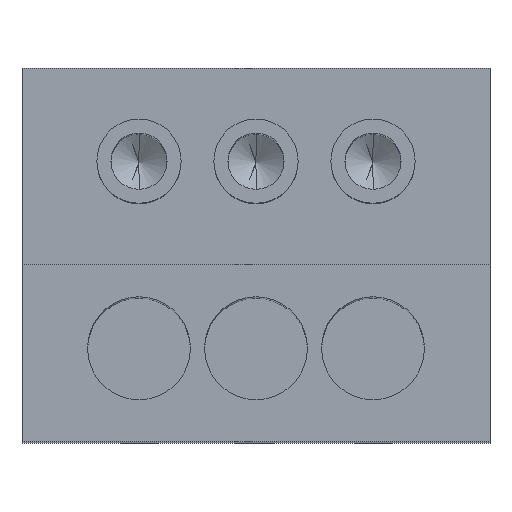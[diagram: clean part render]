
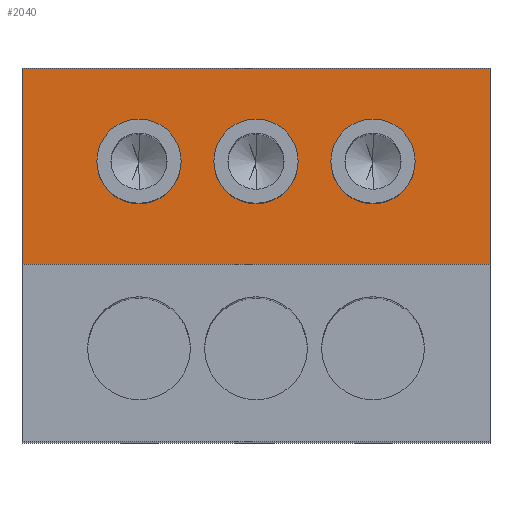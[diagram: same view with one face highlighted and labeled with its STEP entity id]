
A CAD part, top view. The second image highlights one B-rep face of the part: STEP entity #2040.
In plain terms, the highlighted planar face has unit normal (0, 0, 1).
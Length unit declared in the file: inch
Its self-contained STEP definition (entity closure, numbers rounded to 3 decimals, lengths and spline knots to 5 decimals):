
#1 = EDGE_CURVE ( 'NONE', #1478, #151, #2525, .T. ) ;
#19 = ORIENTED_EDGE ( 'NONE', *, *, #950, .F. ) ;
#32 = VECTOR ( 'NONE', #1535, 39.37008 ) ;
#58 = VERTEX_POINT ( 'NONE', #2918 ) ;
#81 = LINE ( 'NONE', #626, #32 ) ;
#150 = PLANE ( 'NONE',  #2132 ) ;
#151 = VERTEX_POINT ( 'NONE', #1407 ) ;
#176 = AXIS2_PLACEMENT_3D ( 'NONE', #2638, #1110, #2883 ) ;
#190 = ORIENTED_EDGE ( 'NONE', *, *, #310, .F. ) ;
#203 = CARTESIAN_POINT ( 'NONE',  ( 0.05, 0.038, 0.1 ) ) ;
#229 = EDGE_CURVE ( 'NONE', #1414, #882, #2978, .T. ) ;
#235 = DIRECTION ( 'NONE',  ( 0., 1., 0. ) ) ;
#310 = EDGE_CURVE ( 'NONE', #1681, #3392, #2010, .T. ) ;
#381 = ORIENTED_EDGE ( 'NONE', *, *, #582, .F. ) ;
#393 = LINE ( 'NONE', #1326, #437 ) ;
#434 = CARTESIAN_POINT ( 'NONE',  ( -0.025, 0.051, 0.1 ) ) ;
#437 = VECTOR ( 'NONE', #1356, 39.37008 ) ;
#508 = CARTESIAN_POINT ( 'NONE',  ( 0.05, 0.038, 0.1 ) ) ;
#512 = DIRECTION ( 'NONE',  ( 0., 0., 1. ) ) ;
#582 = EDGE_CURVE ( 'NONE', #882, #1414, #1553, .T. ) ;
#599 = EDGE_LOOP ( 'NONE', ( #1657, #1703 ) ) ;
#626 = CARTESIAN_POINT ( 'NONE',  ( 0.05, 0.038, 0.1 ) ) ;
#703 = ORIENTED_EDGE ( 'NONE', *, *, #2991, .F. ) ;
#739 = AXIS2_PLACEMENT_3D ( 'NONE', #3370, #2411, #3197 ) ;
#772 = CARTESIAN_POINT ( 'NONE',  ( 0., 0.051, 0.1 ) ) ;
#787 = AXIS2_PLACEMENT_3D ( 'NONE', #3323, #2457, #1533 ) ;
#845 = DIRECTION ( 'NONE',  ( 0., 1., 0. ) ) ;
#882 = VERTEX_POINT ( 'NONE', #1299 ) ;
#950 = EDGE_CURVE ( 'NONE', #2839, #3002, #81, .T. ) ;
#1054 = AXIS2_PLACEMENT_3D ( 'NONE', #2867, #1092, #845 ) ;
#1055 = CARTESIAN_POINT ( 'NONE',  ( -0.05, 0.038, 0.1 ) ) ;
#1092 = DIRECTION ( 'NONE',  ( 0., 0., 1. ) ) ;
#1110 = DIRECTION ( 'NONE',  ( 0., 0., 1. ) ) ;
#1120 = EDGE_CURVE ( 'NONE', #58, #2973, #3150, .T. ) ;
#1292 = EDGE_LOOP ( 'NONE', ( #2061, #19, #2625, #1540 ) ) ;
#1299 = CARTESIAN_POINT ( 'NONE',  ( -0.025, 0.069, 0.1 ) ) ;
#1326 = CARTESIAN_POINT ( 'NONE',  ( 0.05, 0.038, 0.1 ) ) ;
#1356 = DIRECTION ( 'NONE',  ( 0., -1., 0. ) ) ;
#1386 = FACE_BOUND ( 'NONE', #1929, .T. ) ;
#1407 = CARTESIAN_POINT ( 'NONE',  ( 0.025, 0.069, 0.1 ) ) ;
#1414 = VERTEX_POINT ( 'NONE', #434 ) ;
#1421 = FACE_BOUND ( 'NONE', #599, .T. ) ;
#1463 = DIRECTION ( 'NONE',  ( 0., 0., 1. ) ) ;
#1478 = VERTEX_POINT ( 'NONE', #1479 ) ;
#1479 = CARTESIAN_POINT ( 'NONE',  ( 0.025, 0.051, 0.1 ) ) ;
#1506 = FACE_OUTER_BOUND ( 'NONE', #1292, .T. ) ;
#1533 = DIRECTION ( 'NONE',  ( 0., 1., 0. ) ) ;
#1535 = DIRECTION ( 'NONE',  ( -1., 0., 0. ) ) ;
#1540 = ORIENTED_EDGE ( 'NONE', *, *, #1120, .T. ) ;
#1553 = CIRCLE ( 'NONE', #787, 0.009 ) ;
#1657 = ORIENTED_EDGE ( 'NONE', *, *, #1, .F. ) ;
#1676 = AXIS2_PLACEMENT_3D ( 'NONE', #3202, #1463, #2865 ) ;
#1681 = VERTEX_POINT ( 'NONE', #772 ) ;
#1692 = DIRECTION ( 'NONE',  ( -1., 0., 0. ) ) ;
#1703 = ORIENTED_EDGE ( 'NONE', *, *, #2946, .F. ) ;
#1795 = EDGE_CURVE ( 'NONE', #2973, #3002, #1854, .T. ) ;
#1854 = LINE ( 'NONE', #1055, #1861 ) ;
#1861 = VECTOR ( 'NONE', #3341, 39.37008 ) ;
#1876 = CIRCLE ( 'NONE', #3394, 0.009 ) ;
#1885 = CARTESIAN_POINT ( 'NONE',  ( -0.05, 0.038, 0.1 ) ) ;
#1901 = ORIENTED_EDGE ( 'NONE', *, *, #229, .F. ) ;
#1929 = EDGE_LOOP ( 'NONE', ( #190, #703 ) ) ;
#2010 = CIRCLE ( 'NONE', #739, 0.009 ) ;
#2040 = ADVANCED_FACE ( 'NONE', ( #2687, #1386, #1421, #1506 ), #150, .F. ) ;
#2061 = ORIENTED_EDGE ( 'NONE', *, *, #1795, .T. ) ;
#2103 = CARTESIAN_POINT ( 'NONE',  ( 0.025, 0.06, 0.1 ) ) ;
#2132 = AXIS2_PLACEMENT_3D ( 'NONE', #203, #2608, #235 ) ;
#2360 = CARTESIAN_POINT ( 'NONE',  ( 0., 0.069, 0.1 ) ) ;
#2379 = DIRECTION ( 'NONE',  ( 0., 1., 0. ) ) ;
#2411 = DIRECTION ( 'NONE',  ( 0., 0., 1. ) ) ;
#2453 = CARTESIAN_POINT ( 'NONE',  ( 0.05, 0.08, 0.1 ) ) ;
#2457 = DIRECTION ( 'NONE',  ( 0., 0., 1. ) ) ;
#2525 = CIRCLE ( 'NONE', #1676, 0.009 ) ;
#2608 = DIRECTION ( 'NONE',  ( 0., 0., -1. ) ) ;
#2621 = EDGE_CURVE ( 'NONE', #58, #2839, #393, .T. ) ;
#2625 = ORIENTED_EDGE ( 'NONE', *, *, #2621, .F. ) ;
#2638 = CARTESIAN_POINT ( 'NONE',  ( 0., 0.06, 0.1 ) ) ;
#2643 = CIRCLE ( 'NONE', #176, 0.009 ) ;
#2687 = FACE_BOUND ( 'NONE', #2908, .T. ) ;
#2839 = VERTEX_POINT ( 'NONE', #508 ) ;
#2865 = DIRECTION ( 'NONE',  ( 0., 1., 0. ) ) ;
#2867 = CARTESIAN_POINT ( 'NONE',  ( -0.025, 0.06, 0.1 ) ) ;
#2883 = DIRECTION ( 'NONE',  ( 0., 1., 0. ) ) ;
#2908 = EDGE_LOOP ( 'NONE', ( #1901, #381 ) ) ;
#2918 = CARTESIAN_POINT ( 'NONE',  ( 0.05, 0.08, 0.1 ) ) ;
#2946 = EDGE_CURVE ( 'NONE', #151, #1478, #1876, .T. ) ;
#2973 = VERTEX_POINT ( 'NONE', #3113 ) ;
#2978 = CIRCLE ( 'NONE', #1054, 0.009 ) ;
#2991 = EDGE_CURVE ( 'NONE', #3392, #1681, #2643, .T. ) ;
#3002 = VERTEX_POINT ( 'NONE', #1885 ) ;
#3113 = CARTESIAN_POINT ( 'NONE',  ( -0.05, 0.08, 0.1 ) ) ;
#3150 = LINE ( 'NONE', #2453, #3262 ) ;
#3197 = DIRECTION ( 'NONE',  ( 0., 1., 0. ) ) ;
#3202 = CARTESIAN_POINT ( 'NONE',  ( 0.025, 0.06, 0.1 ) ) ;
#3262 = VECTOR ( 'NONE', #1692, 39.37008 ) ;
#3323 = CARTESIAN_POINT ( 'NONE',  ( -0.025, 0.06, 0.1 ) ) ;
#3341 = DIRECTION ( 'NONE',  ( 0., -1., 0. ) ) ;
#3370 = CARTESIAN_POINT ( 'NONE',  ( 0., 0.06, 0.1 ) ) ;
#3392 = VERTEX_POINT ( 'NONE', #2360 ) ;
#3394 = AXIS2_PLACEMENT_3D ( 'NONE', #2103, #512, #2379 ) ;
